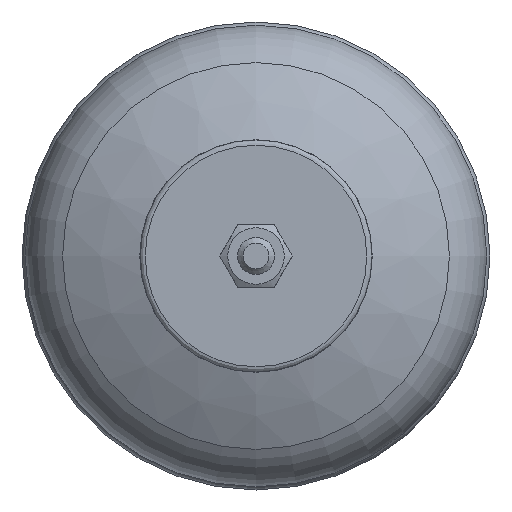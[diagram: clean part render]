
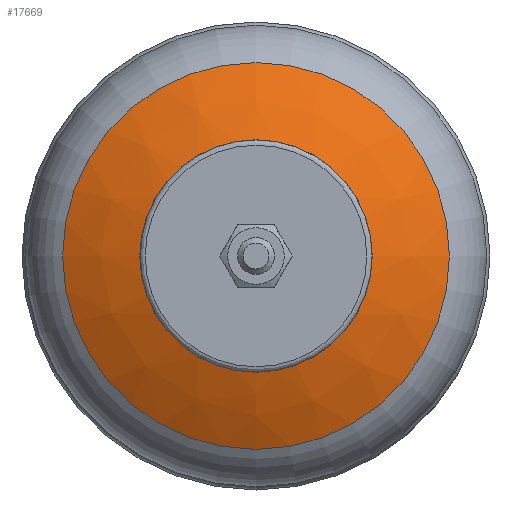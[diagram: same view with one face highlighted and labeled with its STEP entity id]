
A CAD part, front view. The second image highlights one B-rep face of the part: STEP entity #17669.
In plain terms, the highlighted free-form (B-spline) face has degree [2, 2] with [3, 9] control points.
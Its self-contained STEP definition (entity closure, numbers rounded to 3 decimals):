
#19=(
BOUNDED_SURFACE()
B_SPLINE_SURFACE(2,2,((#38476,#38477,#38478,#38479,#38480,#38481,#38482,
#38483,#38484),(#38485,#38486,#38487,#38488,#38489,#38490,#38491,#38492,
#38493),(#38494,#38495,#38496,#38497,#38498,#38499,#38500,#38501,#38502)),
 .UNSPECIFIED.,.F.,.T.,.F.)
B_SPLINE_SURFACE_WITH_KNOTS((3,3),(3,2,2,2,3),(-1.272,-1.054),
(-3.142,-1.571,0.,1.571,3.142),
 .UNSPECIFIED.)
GEOMETRIC_REPRESENTATION_ITEM()
RATIONAL_B_SPLINE_SURFACE(((1.,0.707,1.,0.707,1.,
0.707,1.,0.707,1.),(0.994,0.703,
0.994,0.703,0.994,0.703,
0.994,0.703,0.994),(1.,0.707,
1.,0.707,1.,0.707,1.,0.707,1.)))
REPRESENTATION_ITEM('')
SURFACE()
);
#33=(
BOUNDED_CURVE()
B_SPLINE_CURVE(2,(#38507,#38508,#38509),.UNSPECIFIED.,.F.,.F.)
B_SPLINE_CURVE_WITH_KNOTS((3,3),(1.054,1.272),
 .UNSPECIFIED.)
CURVE()
GEOMETRIC_REPRESENTATION_ITEM()
RATIONAL_B_SPLINE_CURVE((1.,0.994,1.))
REPRESENTATION_ITEM('')
);
#1179=CIRCLE('',#18883,31.437);
#1180=CIRCLE('',#18884,31.437);
#1201=CIRCLE('',#18939,52.382);
#1202=CIRCLE('',#18940,52.382);
#5089=FACE_OUTER_BOUND('',#6174,.T.);
#6174=EDGE_LOOP('',(#16510,#16511,#16512,#16513,#16514,#16515));
#8655=VERTEX_POINT('',#38232);
#8656=VERTEX_POINT('',#38233);
#8695=VERTEX_POINT('',#38503);
#8696=VERTEX_POINT('',#38504);
#11266=EDGE_CURVE('',#8655,#8656,#1179,.T.);
#11267=EDGE_CURVE('',#8656,#8655,#1180,.T.);
#11318=EDGE_CURVE('',#8695,#8696,#1201,.T.);
#11319=EDGE_CURVE('',#8696,#8695,#1202,.T.);
#11320=EDGE_CURVE('',#8696,#8656,#33,.T.);
#16510=ORIENTED_EDGE('',*,*,#11318,.F.);
#16511=ORIENTED_EDGE('',*,*,#11319,.F.);
#16512=ORIENTED_EDGE('',*,*,#11320,.T.);
#16513=ORIENTED_EDGE('',*,*,#11267,.T.);
#16514=ORIENTED_EDGE('',*,*,#11266,.T.);
#16515=ORIENTED_EDGE('',*,*,#11320,.F.);
#17669=ADVANCED_FACE('',(#5089),#19,.F.);
#18883=AXIS2_PLACEMENT_3D('',#38234,#22550,#22551);
#18884=AXIS2_PLACEMENT_3D('',#38235,#22552,#22553);
#18939=AXIS2_PLACEMENT_3D('',#38505,#22674,#22675);
#18940=AXIS2_PLACEMENT_3D('',#38506,#22676,#22677);
#22550=DIRECTION('center_axis',(0.,1.,0.));
#22551=DIRECTION('ref_axis',(0.,0.,-1.));
#22552=DIRECTION('center_axis',(0.,1.,0.));
#22553=DIRECTION('ref_axis',(0.,0.,-1.));
#22674=DIRECTION('center_axis',(0.,1.,0.));
#22675=DIRECTION('ref_axis',(-1.,0.,0.));
#22676=DIRECTION('center_axis',(0.,1.,0.));
#22677=DIRECTION('ref_axis',(-1.,0.,0.));
#38232=CARTESIAN_POINT('',(31.437,0.661,0.));
#38233=CARTESIAN_POINT('',(0.,0.661,-31.437));
#38234=CARTESIAN_POINT('Origin',(0.,0.661,0.));
#38235=CARTESIAN_POINT('Origin',(0.,0.661,0.));
#38476=CARTESIAN_POINT('Ctrl Pts',(0.,0.661,-31.437));
#38477=CARTESIAN_POINT('Ctrl Pts',(-31.437,0.661,
-31.437));
#38478=CARTESIAN_POINT('Ctrl Pts',(-31.437,0.661,
0.));
#38479=CARTESIAN_POINT('Ctrl Pts',(-31.437,0.661,
31.437));
#38480=CARTESIAN_POINT('Ctrl Pts',(0.,0.661,31.437));
#38481=CARTESIAN_POINT('Ctrl Pts',(31.437,0.661,31.437));
#38482=CARTESIAN_POINT('Ctrl Pts',(31.437,0.661,0.));
#38483=CARTESIAN_POINT('Ctrl Pts',(31.437,0.661,-31.437));
#38484=CARTESIAN_POINT('Ctrl Pts',(0.,0.661,-31.437));
#38485=CARTESIAN_POINT('Ctrl Pts',(0.,4.042,-42.404));
#38486=CARTESIAN_POINT('Ctrl Pts',(-42.404,4.042,-42.404));
#38487=CARTESIAN_POINT('Ctrl Pts',(-42.404,4.042,0.));
#38488=CARTESIAN_POINT('Ctrl Pts',(-42.404,4.042,42.404));
#38489=CARTESIAN_POINT('Ctrl Pts',(0.,4.042,42.404));
#38490=CARTESIAN_POINT('Ctrl Pts',(42.404,4.042,42.404));
#38491=CARTESIAN_POINT('Ctrl Pts',(42.404,4.042,0.));
#38492=CARTESIAN_POINT('Ctrl Pts',(42.404,4.042,-42.404));
#38493=CARTESIAN_POINT('Ctrl Pts',(0.,4.042,-42.404));
#38494=CARTESIAN_POINT('Ctrl Pts',(0.,9.714,-52.382));
#38495=CARTESIAN_POINT('Ctrl Pts',(-52.382,9.714,-52.382));
#38496=CARTESIAN_POINT('Ctrl Pts',(-52.382,9.714,0.));
#38497=CARTESIAN_POINT('Ctrl Pts',(-52.382,9.714,52.382));
#38498=CARTESIAN_POINT('Ctrl Pts',(0.,9.714,52.382));
#38499=CARTESIAN_POINT('Ctrl Pts',(52.382,9.714,52.382));
#38500=CARTESIAN_POINT('Ctrl Pts',(52.382,9.714,0.));
#38501=CARTESIAN_POINT('Ctrl Pts',(52.382,9.714,-52.382));
#38502=CARTESIAN_POINT('Ctrl Pts',(0.,9.714,-52.382));
#38503=CARTESIAN_POINT('',(-52.382,9.714,0.));
#38504=CARTESIAN_POINT('',(0.,9.714,-52.382));
#38505=CARTESIAN_POINT('Origin',(0.,9.714,0.));
#38506=CARTESIAN_POINT('Origin',(0.,9.714,0.));
#38507=CARTESIAN_POINT('Ctrl Pts',(0.,9.714,-52.382));
#38508=CARTESIAN_POINT('Ctrl Pts',(0.,4.042,-42.404));
#38509=CARTESIAN_POINT('Ctrl Pts',(0.,0.661,-31.437));
